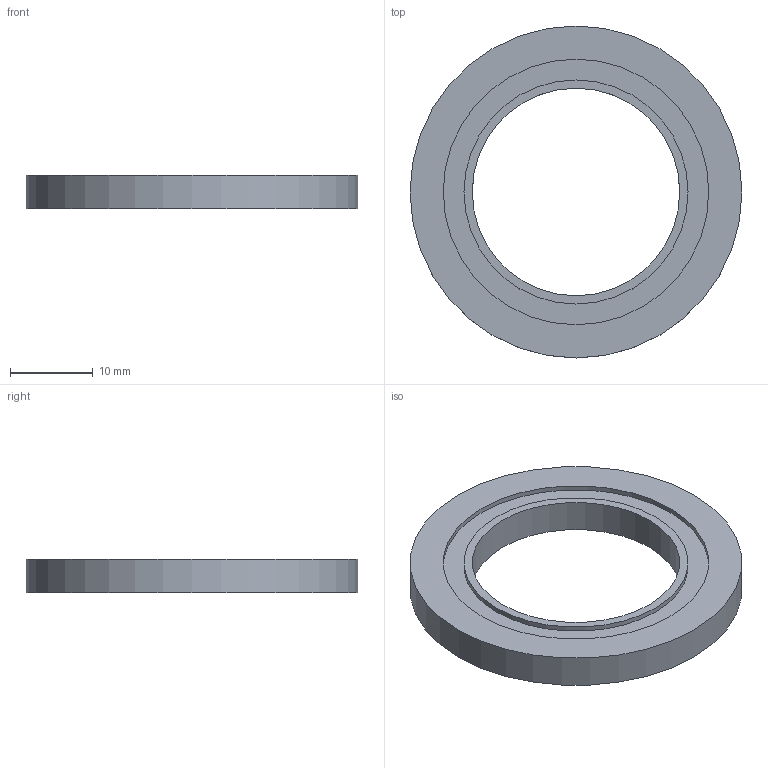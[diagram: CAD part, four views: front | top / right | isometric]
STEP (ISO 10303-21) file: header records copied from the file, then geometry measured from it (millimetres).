
FILE_DESCRIPTION(/* description */ (''),/* implementation_level */ '2;1');
FILE_NAME(/* name */ 'W:\WEBOVKY\Knecht\VD\VD25\VD25.stp',/* time_stamp */ '2021-03-08T12:28:40+01:00',/* author */ ('mkorenek'),/* organization */ (''),/* preprocessor_version */ 'ST-DEVELOPER v18.1',/* originating_system */ 'Autodesk Inventor 2021',/* authorisation */ '');
FILE_SCHEMA (('AUTOMOTIVE_DESIGN { 1 0 10303 214 3 1 1 }'));
Length unit declared in the file: millimetre
Products named in the file (1): VD16
Bounding box: 40 x 40 x 4 mm (x, y, z)
Volume: 2924 mm3; surface area: 2459.6 mm2
Topology: 1 solids, 1 shells, 8 faces, 16 edges, 12 vertices
Faces by surface type: plane 4, cylinder 4
Full cylindrical faces by diameter (mm): 25 x1, 27 x1, 32 x1, 40 x1
Entity records: 269 total; most frequent: DIRECTION 46, CARTESIAN_POINT 37, ORIENTED_EDGE 32, AXIS2_PLACEMENT_3D 21, EDGE_CURVE 16, EDGE_LOOP 12, CIRCLE 12, VERTEX_POINT 12
